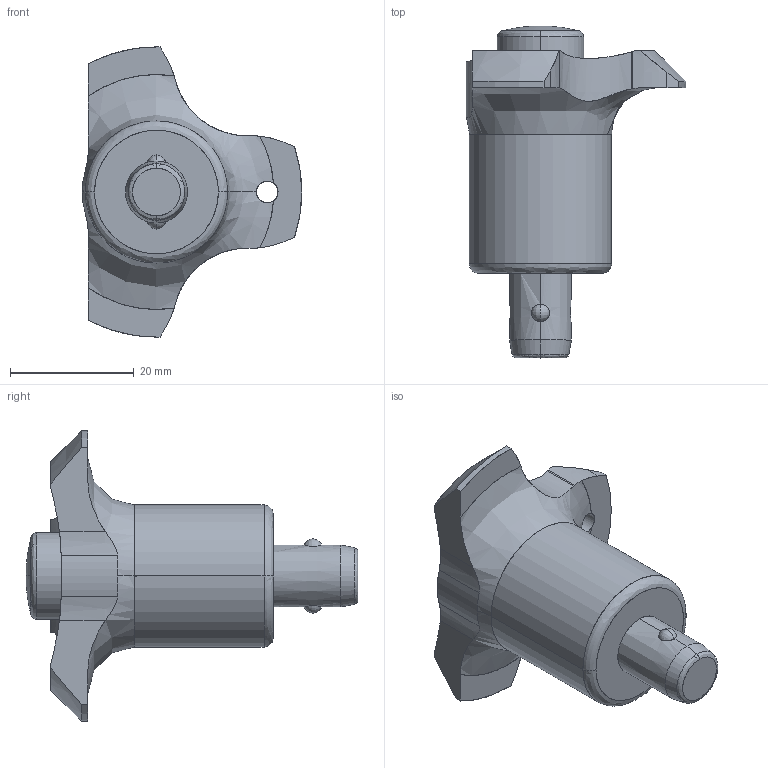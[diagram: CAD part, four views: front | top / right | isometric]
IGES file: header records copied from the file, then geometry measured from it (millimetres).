
Start section: SolidWorks IGES file using analytic representation for surfaces
Global section: file name: C:\Users\ianosborn\Desktop\33180_v2\33180_v2_20250106_IGES\33180.W0030.igs; native system: SolidWorks 2019; preprocessor: SolidWorks 2019; author: IanOsborn; date: 250106.111509; units: millimetre
Bounding box: 35.5 x 53.7 x 46.99 mm (x, y, z)
Surface area: 8264.5 mm2 (no closed solid volume)
Topology: 0 solids, 0 shells, 68 faces, 1008 edges, 1007 vertices
Faces by surface type: revolution 40, bspline 28
